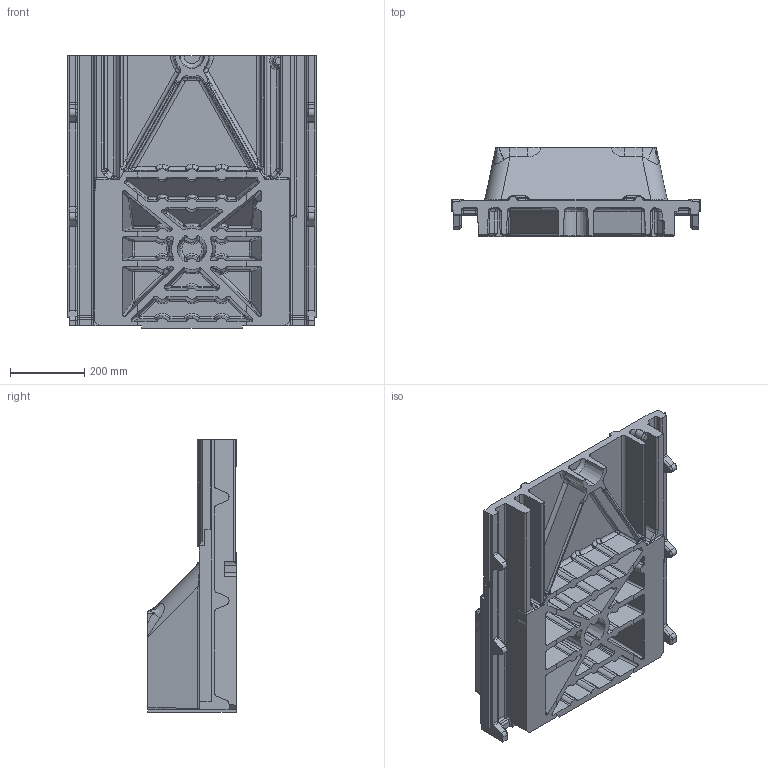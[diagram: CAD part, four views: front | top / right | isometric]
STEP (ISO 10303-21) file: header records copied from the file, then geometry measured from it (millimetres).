
FILE_DESCRIPTION (( 'STEP AP203' ), '1' );
FILE_NAME ('test.step', '2019-05-31T13:58:28', ( '' ), ( '' ), 'SwSTEP 2.0', 'SolidWorks 2016', '' );
FILE_SCHEMA (( 'CONFIG_CONTROL_DESIGN' ));
Products named in the file (1): test
Bounding box: 674 x 240 x 736 mm (x, y, z)
Volume: 36546320.6 mm3; surface area: 2521380.8 mm2
Topology: 1 solids, 1 shells, 929 faces, 2299 edges, 1350 vertices
Faces by surface type: bspline 372, cylinder 268, plane 228, cone 61
Entity records: 47963 total; most frequent: CARTESIAN_POINT 28983, ORIENTED_EDGE 4546, DIRECTION 3167, EDGE_CURVE 2273, VERTEX_POINT 1350, AXIS2_PLACEMENT_3D 1143, EDGE_LOOP 933, ADVANCED_FACE 929
